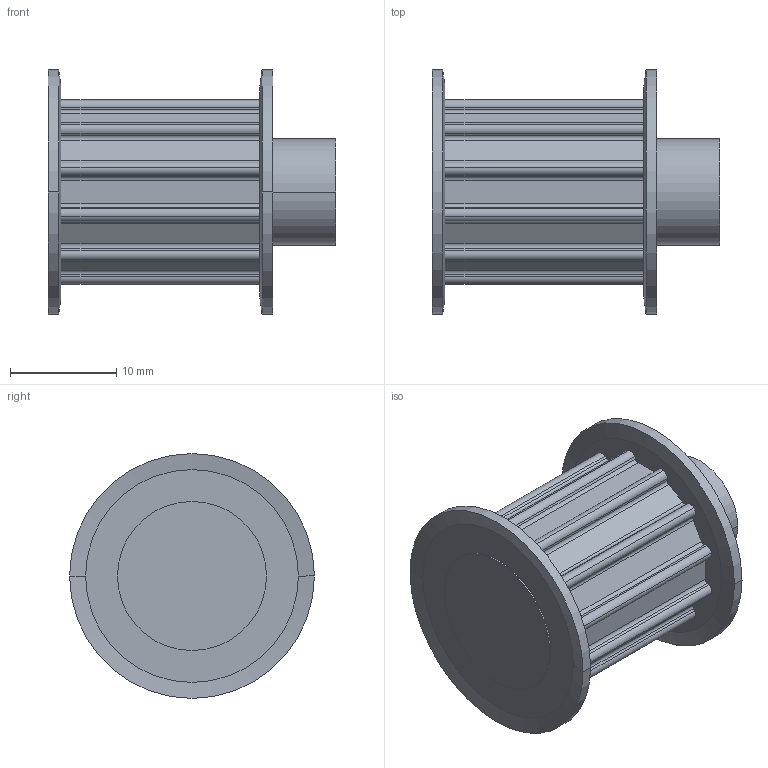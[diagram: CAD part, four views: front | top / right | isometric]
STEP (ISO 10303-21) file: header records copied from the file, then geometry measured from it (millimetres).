
FILE_DESCRIPTION( ( '' ), '1' );
FILE_NAME( 'C:/Users/Stangenbergd/Documents/CAD_Step/1/16631200.stp', '2021-10-19T09:35:52', ( '' ), ( '' ), ' ', ' ', ' ' );
FILE_SCHEMA( ( 'CONFIG_CONTROL_DESIGN' ) );
Length unit declared in the file: millimetre
Products named in the file (1): 1
Bounding box: 27.06 x 23 x 23 mm (x, y, z)
Volume: 5281.1 mm3; surface area: 2798.7 mm2
Topology: 1 solids, 1 shells, 109 faces, 307 edges, 205 vertices
Faces by surface type: cylinder 58, plane 43, cone 8
Entity records: 3626 total; most frequent: DIRECTION 660, CARTESIAN_POINT 622, ORIENTED_EDGE 614, EDGE_CURVE 307, AXIS2_PLACEMENT_3D 243, VERTEX_POINT 205, LINE 174, VECTOR 174
